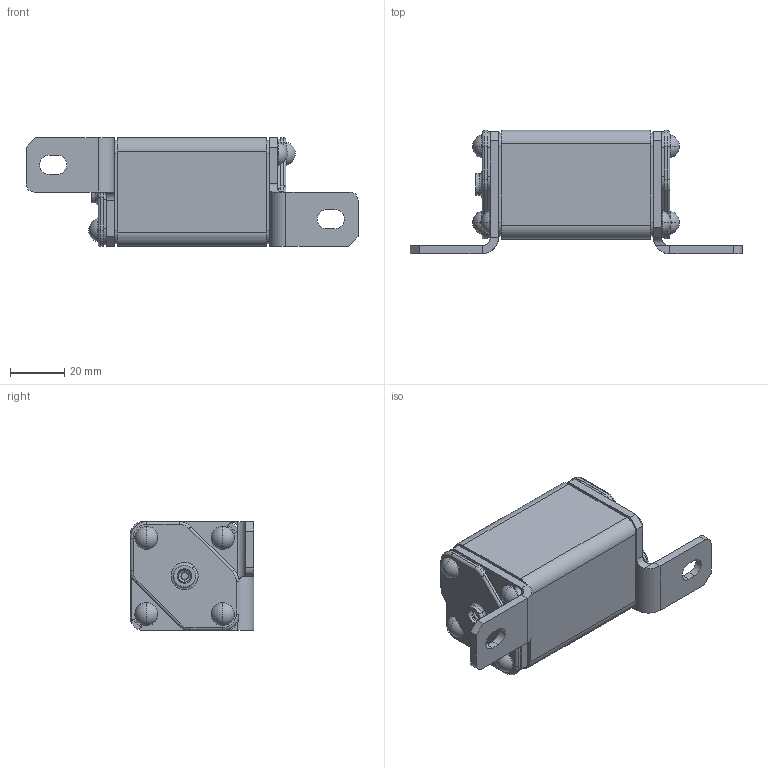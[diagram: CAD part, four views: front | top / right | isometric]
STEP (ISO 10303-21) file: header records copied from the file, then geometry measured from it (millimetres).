
FILE_DESCRIPTION (( 'STEP AP214' ), '1' );
FILE_NAME ('砎槼隰譇膻蠈錪 珫57-31370-XXXA-XXXX-忡曖.STEP', '2023-05-10T05:37:30', ( '' ), ( '' ), 'SwSTEP 2.0', 'SolidWorks 2018', '' );
FILE_SCHEMA (( 'AUTOMOTIVE_DESIGN' ));
Length unit declared in the file: millimetre
Products named in the file (1): 砎槼隰譇膻蠈錪 珫57-31370-XXXA-XXXX-忡曖
Bounding box: 122 x 45.5 x 40 mm (x, y, z)
Volume: 107995 mm3; surface area: 25137 mm2
Topology: 1 solids, 12 shells, 380 faces, 894 edges, 560 vertices
Faces by surface type: cylinder 161, plane 146, torus 40, sphere 16, cone 16, bspline 1
Entity records: 15366 total; most frequent: DIRECTION 2088, CARTESIAN_POINT 2050, ORIENTED_EDGE 1788, EDGE_CURVE 894, AXIS2_PLACEMENT_3D 836, VERTEX_POINT 560, CIRCLE 456, EDGE_LOOP 424
